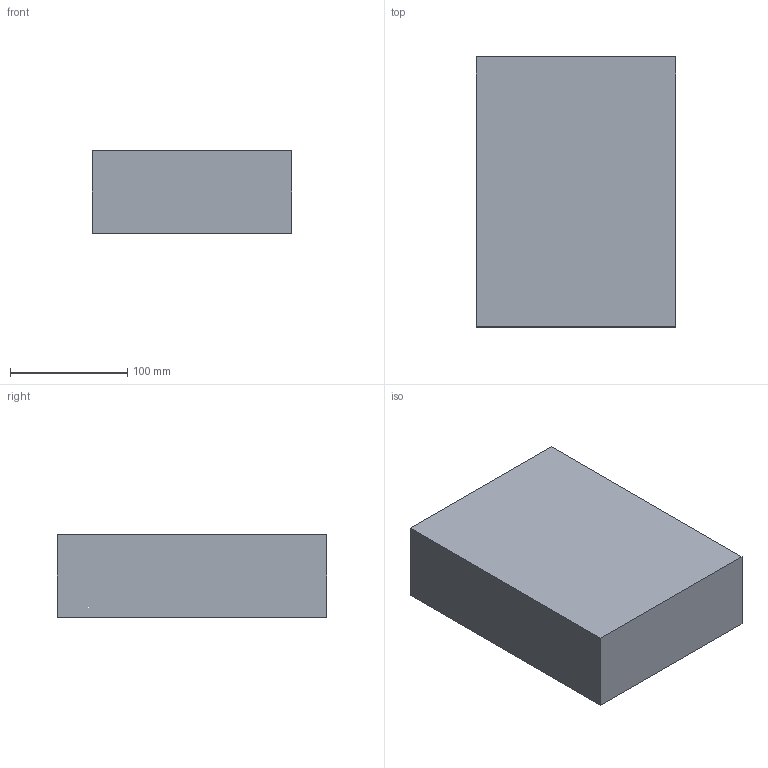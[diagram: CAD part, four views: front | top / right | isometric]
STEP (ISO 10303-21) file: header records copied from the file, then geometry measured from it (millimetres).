
FILE_DESCRIPTION(('Open CASCADE Model'),'2;1');
FILE_NAME('Open CASCADE Shape Model','2026-10-16T18:03:45',('Author'),( 'Open CASCADE'),'Open CASCADE STEP processor 7.8','Open CASCADE 7.8' ,'Unknown');
FILE_SCHEMA(('AUTOMOTIVE_DESIGN { 1 0 10303 214 1 1 1 1 }'));
Length unit declared in the file: millimetre
Products named in the file (1): Open CASCADE STEP translator 7.8 54
Bounding box: 170 x 230 x 70 mm (x, y, z)
Volume: 2737000 mm3; surface area: 134200 mm2
Topology: 1 solids, 1 shells, 6 faces, 12 edges, 8 vertices
Faces by surface type: plane 6
Entity records: 322 total; most frequent: CARTESIAN_POINT 51, DIRECTION 50, LINE 36, VECTOR 36, ORIENTED_EDGE 24, PCURVE 24, DEFINITIONAL_REPRESENTATION 24, EDGE_CURVE 12
